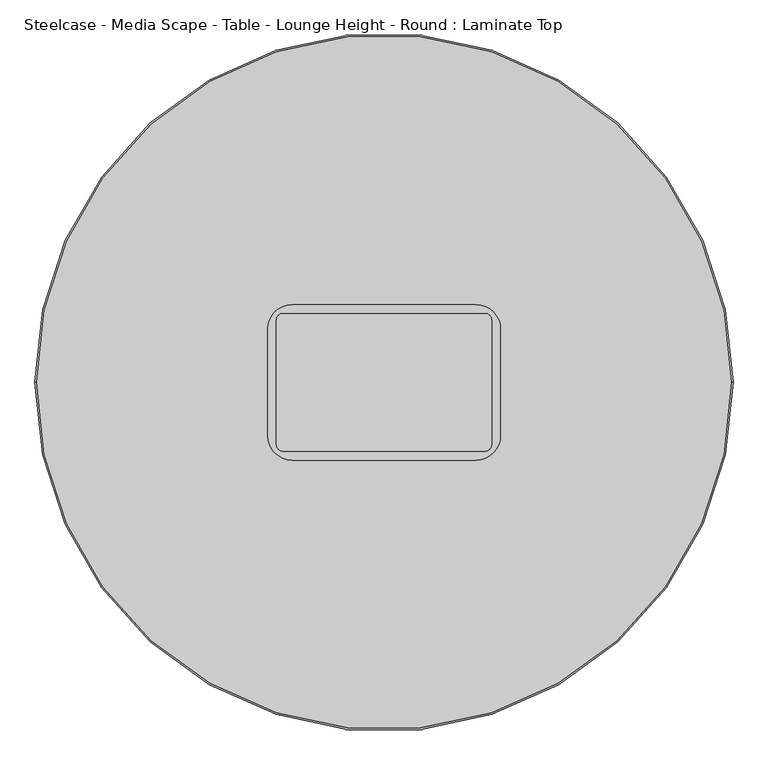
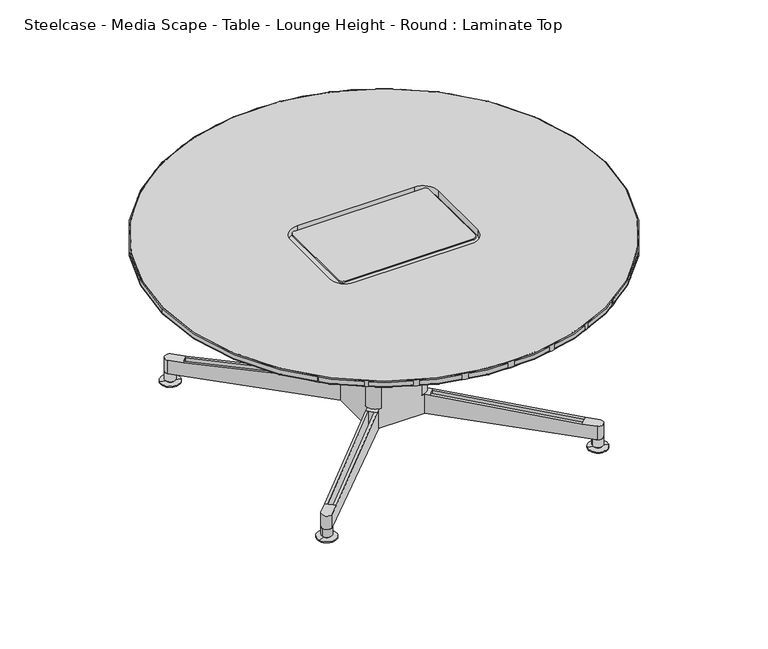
"""IFC4 building model written with IfcOpenShell, lengths in millimetres: furniture geometry, Steelcase - Media Scape - Table - Lounge Height - Round : Laminate Top."""

from ifc_helpers import new_model, si_unit, point, frame, frame_2d, origin, origin_with_axes, origin_2d, place, context, project, spatial, polyline, circle_curve, ellipse_curve, trimmed, segment, composite_curve, outline, extrude, source, transform, mapped, element, save
from ifc_brep_helpers import plane_surface, cylinder_surface, revolved_surface, spline_surface, advanced_brep


def steelcase_media_scape_table_lounge_height_round_laminate_top_3a966390(model_context):
    return source(origin(), model_context, "Body", "SolidModel", [
        extrude(outline(composite_curve([segment(trimmed(circle_curve(origin_2d(), 683.878737), [point((-683.878737, 0.0))], [point((683.878737, 0.0))], False, "CARTESIAN"), True, "CONTINUOUS"), segment(trimmed(circle_curve(origin_2d(), 683.878737), [point((683.878737, 0.0))], [point((-683.878737, 0.0))], False, "CARTESIAN"), True, "CONTINUOUS")], self_intersect=False), holes=[composite_curve([segment(polyline([(-228.727124, 105.1501252), (-228.727124, -104.8655318)]), True, "CONTINUOUS"), segment(trimmed(circle_curve(frame_2d((-180.811706, -104.8655318)), 47.915418), [point((-228.727124, -104.8655318))], [point((-180.811706, -152.7809498))], True, "CARTESIAN"), True, "CONTINUOUS"), segment(polyline([(-180.811706, -152.7809498), (181.3196208, -152.7809498)]), True, "CONTINUOUS"), segment(trimmed(circle_curve(frame_2d((181.3196208, -104.8655318)), 47.915418), [point((181.3196208, -152.7809498))], [point((229.2350388, -104.8655318))], True, "CARTESIAN"), True, "CONTINUOUS"), segment(polyline([(229.2350388, -104.8655318), (229.2350388, 105.1501252)]), True, "CONTINUOUS"), segment(trimmed(circle_curve(frame_2d((181.6042417, 105.1501252)), 47.6307971), [point((229.2350388, 105.1501252))], [point((181.6042417, 152.7809223))], True, "CARTESIAN"), True, "CONTINUOUS"), segment(polyline([(181.6042417, 152.7809223), (-181.0963269, 152.7809223)]), True, "CONTINUOUS"), segment(trimmed(circle_curve(frame_2d((-181.0963269, 105.1501252)), 47.6307971), [point((-181.0963269, 152.7809223))], [point((-228.727124, 105.1501252))], True, "CARTESIAN"), True, "CONTINUOUS")], self_intersect=False)]), frame((0.0, 0.0, 566.7273262), z_axis=(0.0, 0.0, 1.0), x_axis=(1.0, 0.0, 0.0)), (0.0, 0.0, 1.0), 20.0660138),
        advanced_brep(
        [(687.0537612, 0.0, 569.9023504), (-687.0537612, 0.0, 569.9023504), (-683.878737, 0.0, 566.7273262), (683.878737, 0.0, 566.7273262), (687.0537612, 0.0, 583.6183158), (-687.0537612, 0.0, 583.6183158), (683.878737, 0.0, 586.79334), (-683.878737, 0.0, 586.79334)],
        [
            (0, 1, circle_curve(frame((0.0, 0.0, 569.9023504), z_axis=(0.0, 0.0, -1.0), x_axis=(-1.0, 0.0, 0.0)), 687.0537612)),
            (1, 2, circle_curve(frame((-683.878737, 0.0, 569.9023504), z_axis=(0.0, -1.0, 0.0), x_axis=(1.0, 0.0, 0.0)), 3.1750242)),
            (2, 3, circle_curve(frame((0.0, 0.0, 566.7273262), z_axis=(0.0, 0.0, 1.0), x_axis=(-1.0, 0.0, 0.0)), 683.878737)),
            (3, 0, circle_curve(frame((683.878737, 0.0, 569.9023504), z_axis=(0.0, -1.0, 0.0), x_axis=(-1.0, 0.0, 0.0)), 3.1750242)),
            (4, 5, circle_curve(frame((0.0, 0.0, 583.6183158), z_axis=(0.0, 0.0, -1.0), x_axis=(-1.0, 0.0, 0.0)), 687.0537612)),
            (5, 1),
            (0, 4),
            (6, 7, circle_curve(frame((0.0, 0.0, 586.79334), z_axis=(0.0, 0.0, -1.0), x_axis=(-1.0, 0.0, 0.0)), 683.878737)),
            (7, 5, circle_curve(frame((-683.878737, 0.0, 583.6183158), z_axis=(0.0, -1.0, 0.0), x_axis=(1.0, 0.0, 0.0)), 3.1750242)),
            (4, 6, circle_curve(frame((683.878737, 0.0, 583.6183158), z_axis=(0.0, -1.0, 0.0), x_axis=(-1.0, 0.0, 0.0)), 3.1750242)),
            (2, 7),
            (6, 3),
            (1, 0, circle_curve(frame((0.0, 0.0, 569.9023504), z_axis=(0.0, 0.0, -1.0), x_axis=(1.0, 0.0, 0.0)), 687.0537612)),
            (3, 2, circle_curve(frame((0.0, 0.0, 566.7273262), z_axis=(0.0, 0.0, 1.0), x_axis=(1.0, 0.0, 0.0)), 683.878737)),
            (5, 4, circle_curve(frame((0.0, 0.0, 583.6183158), z_axis=(0.0, 0.0, -1.0), x_axis=(1.0, 0.0, 0.0)), 687.0537612)),
            (7, 6, circle_curve(frame((0.0, 0.0, 586.79334), z_axis=(0.0, 0.0, -1.0), x_axis=(1.0, 0.0, 0.0)), 683.878737)),
        ],
        [
            revolved_surface(trimmed(ellipse_curve(frame((-683.878737, 0.0, 569.9023504), z_axis=(0.0, 1.0, 0.0), x_axis=(1.0, 0.0, 0.0)), 3.1750242, 3.1750242), [point((-683.878737, 0.0, 566.7273262))], [point((-687.0537612, 0.0, 569.9023504))], True, "CARTESIAN"), (0.0, 0.0, 0.0), (0.0, 0.0, 1.0)),
            cylinder_surface(frame((0.0, 0.0, 0.0), z_axis=(0.0, 0.0, 1.0), x_axis=(-1.0, 0.0, 0.0)), 687.0537612),
            revolved_surface(trimmed(ellipse_curve(frame((-683.878737, 0.0, 583.6183158), z_axis=(0.0, 1.0, 0.0), x_axis=(1.0, 0.0, 0.0)), 3.1750242, 3.1750242), [point((-687.0537612, 0.0, 583.6183158))], [point((-683.878737, 0.0, 586.79334))], True, "CARTESIAN"), (0.0, 0.0, 0.0), (0.0, 0.0, 1.0)),
            revolved_surface(polyline([(-683.878737, 0.0, 586.79334), (-683.878737, 0.0, 566.7273262)]), (0.0, 0.0, 0.0), (0.0, 0.0, 1.0)),
            revolved_surface(trimmed(ellipse_curve(frame((683.878737, 0.0, 569.9023504), z_axis=(0.0, -1.0, 0.0), x_axis=(-1.0, 0.0, 0.0)), 3.1750242, 3.1750242), [point((683.878737, 0.0, 566.7273262))], [point((687.0537612, 0.0, 569.9023504))], True, "CARTESIAN"), (0.0, 0.0, 0.0), (0.0, 0.0, 1.0)),
            cylinder_surface(origin_with_axes(), 687.0537612),
            revolved_surface(trimmed(ellipse_curve(frame((683.878737, 0.0, 583.6183158), z_axis=(0.0, -1.0, 0.0), x_axis=(-1.0, 0.0, 0.0)), 3.1750242, 3.1750242), [point((687.0537612, 0.0, 583.6183158))], [point((683.878737, 0.0, 586.79334))], True, "CARTESIAN"), (0.0, 0.0, 0.0), (0.0, 0.0, 1.0)),
            revolved_surface(polyline([(683.878737, 0.0, 586.79334), (683.878737, 0.0, 566.7273262)]), (0.0, 0.0, 0.0), (0.0, 0.0, 1.0)),
        ],
        [
            (0, [[1, 2, 3, 4]]),
            (1, [[5, 6, -1, 7]]),
            (2, [[8, 9, -5, 10]]),
            (3, [[-3, 11, -8, 12]]),
            (4, [[13, -4, 14, -2]]),
            (5, [[15, -7, -13, -6]]),
            (6, [[16, -10, -15, -9]]),
            (7, [[-14, -12, -16, -11]]),
        ],
    ),
        advanced_brep(
        [(104.8668545, -82.1762242, 96.4980935), (403.4729739, -380.7823435, 78.1912503), (433.2236275, -410.5329971, 78.1912484), (433.2236275, -410.5329971, 34.5059), (93.9056692, -71.2150389, 34.5059), (93.9056692, -71.2150389, 96.4819), (397.8693429, -386.3859745, 78.1912503), (99.2632235, -87.7798552, 96.4980935), (99.2633324, -87.779964, 34.5059), (397.8693429, -386.3859745, 34.5059), (410.8500564, -433.0537332, 34.5059), (71.4620024, -93.6587057, 34.5059), (-70.954097, -93.6587057, 34.5059), (-410.342151, -433.0537332, 34.5059), (-432.7192089, -410.5295104, 34.5059), (-93.4047373, -71.2080654, 34.5059), (-93.4047373, 71.2080654, 34.5059), (-432.7192089, 410.5295104, 34.5059), (-410.342151, 433.0537332, 34.5059), (-70.954097, 93.6587057, 34.5059), (71.4620024, 93.6587057, 34.5059), (410.8500564, 433.0537332, 34.5059), (433.2271142, 410.5295104, 34.5059), (93.9126427, 71.2080654, 34.5059), (88.0268187, -99.01626, 34.5059), (386.6329381, -397.6223793, 34.5059), (-386.1250327, -397.6223793, 34.5059), (-87.5189134, -99.01626, 34.5059), (-98.7554223, -87.7799593, 34.5059), (-397.3614375, -386.3859745, 34.5059), (386.6329381, 397.6223793, 34.5059), (88.0268187, 99.01626, 34.5059), (99.2633324, 87.779964, 34.5059), (397.8693429, 386.3859745, 34.5059), (-87.5189134, 99.01626, 34.5059), (-386.1250327, 397.6223793, 34.5059), (-397.3615827, 386.3861198, 34.5059), (-98.7553181, 87.7798552, 34.5059), (381.026038, -403.2297148, 78.1912484), (410.8500564, -433.0537332, 78.1912484), (386.6330833, -397.6225246, 78.1912484), (82.419701, -104.6233777, 96.4980935), (71.4585157, -93.6621924, 96.4819), (93.9126427, 71.2080654, 96.4819), (104.8739731, 82.1693958, 96.4819), (99.2633324, 87.779964, 96.4819), (88.0268549, 99.0162962, 96.4819), (82.4231877, 104.619891, 96.4819), (71.4620024, 93.6587057, 96.4819), (62.1626427, 93.6586743, 96.4819), (93.9126427, 61.9086743, 96.4819), (-70.954097, 93.6587057, 96.4819), (-81.9152776, 104.6198863, 96.4819), (-87.5189449, 99.0162915, 96.4819), (-98.7554223, 87.7799593, 96.4819), (-104.3590896, 82.1763645, 96.4819), (-93.4047373, 71.2080654, 96.4819), (-93.4047373, 61.9086743, 96.4819), (-61.6547373, 93.6586743, 96.4819), (-93.4047373, -71.2080654, 96.4819), (-104.366063, -82.1693911, 96.4819), (-98.7554223, -87.7799593, 96.4819), (-87.5189449, -99.0162915, 96.4819), (-81.9152776, -104.6198863, 96.4819), (-70.954097, -93.6587057, 96.4819), (-61.6547373, -93.6587057, 96.4819), (-93.4047373, -61.9087057, 96.4819), (88.0268549, -99.0162962, 96.4819), (93.9126427, -61.9087057, 96.4819), (62.1626427, -93.6587057, 96.4819), (433.2306009, 410.5260237, 78.1912484), (403.4801651, 380.7755878, 78.1912484), (381.029307, 403.2260104, 78.1912503), (410.8535431, 433.0502464, 78.1912484), (-61.6547373, 93.6587057, 352.68662), (62.1626427, 93.6587057, 352.68662), (-410.3456377, 433.0502464, 78.1912484), (-380.5216194, 403.2262281, 78.1912484), (-402.972042, 380.7753701, 78.1912503), (-432.7226956, 410.5260237, 78.1912484), (-93.4047373, -61.9087057, 352.68662), (-93.4047373, 61.9086743, 352.68662), (-432.7226956, -410.5260237, 78.1912484), (-402.9722597, -380.7755878, 78.1912484), (-380.5214017, -403.2260104, 78.1912503), (-410.3456377, -433.0502464, 78.1912484), (62.1626427, -93.6587057, 352.68662), (-61.6547373, -93.6587057, 352.68662), (93.9126427, 61.9086743, 352.68662), (93.9126427, -61.9087057, 352.68662), (-386.1250327, -397.6223793, 78.1912503), (-397.3615827, -386.3861198, 78.1912484), (386.6329381, 397.6223793, 78.1912503), (397.8694881, 386.3861198, 78.1912484), (-386.1250327, 397.6223793, 78.1912503), (-397.3614695, 386.3860065, 78.1912484)],
        [
            (0, 1),
            (1, 2),
            (2, 3),
            (3, 4),
            (4, 5),
            (5, 0),
            (6, 7),
            (7, 8),
            (8, 9),
            (9, 6),
            (3, 10, circle_curve(frame((420.3453732, -420.1094725, 34.5059), z_axis=(0.0, 0.0, -1.0), x_axis=(1.0, 0.0, 0.0)), 16.053502)),
            (10, 11),
            (11, 12),
            (12, 13),
            (13, 14, circle_curve(frame((-419.8374678, -420.1094725, 34.5059), z_axis=(0.0, 0.0, -1.0), x_axis=(-1.0, 0.0, 0.0)), 16.053502)),
            (14, 15),
            (15, 16),
            (16, 17),
            (17, 18, circle_curve(frame((-419.8374678, 420.1094725, 34.5059), z_axis=(0.0, 0.0, -1.0), x_axis=(-1.0, 0.0, 0.0)), 16.053502)),
            (18, 19),
            (19, 20),
            (20, 21),
            (21, 22, circle_curve(frame((420.3453732, 420.1094725, 34.5059), z_axis=(0.0, 0.0, -1.0), x_axis=(1.0, 0.0, 0.0)), 16.053502)),
            (22, 23),
            (23, 4),
            (8, 24),
            (24, 25),
            (25, 9),
            (26, 27),
            (27, 28),
            (28, 29),
            (29, 26),
            (30, 31),
            (31, 32),
            (32, 33),
            (33, 30),
            (34, 35),
            (35, 36),
            (36, 37),
            (37, 34),
            (0, 7),
            (6, 1),
            (38, 39),
            (39, 2, circle_curve(frame((420.3453732, -420.1094725, 78.1912484), z_axis=(0.0, 0.0, 1.0), x_axis=(1.0, 0.0, 0.0)), 16.053502)),
            (6, 40),
            (40, 38),
            (38, 41),
            (41, 42),
            (42, 11),
            (10, 39),
            (25, 40),
            (43, 44),
            (44, 45),
            (45, 46),
            (46, 47),
            (47, 48),
            (48, 49),
            (49, 50, circle_curve(frame((62.1626427, 61.9086743, 96.4819), z_axis=(0.0, 0.0, -1.0), x_axis=(1.0, 0.0, 0.0)), 31.75)),
            (50, 43),
            (51, 52),
            (52, 53),
            (53, 54),
            (54, 55),
            (55, 56),
            (56, 57),
            (57, 58, circle_curve(frame((-61.6547373, 61.9086743, 96.4819), z_axis=(0.0, 0.0, -1.0), x_axis=(1.0, 0.0, 0.0)), 31.75)),
            (58, 51),
            (59, 60),
            (60, 61),
            (61, 62),
            (62, 63),
            (63, 64),
            (64, 65),
            (65, 66, circle_curve(frame((-61.6547373, -61.9087057, 96.4819), z_axis=(0.0, 0.0, -1.0), x_axis=(1.0, 0.0, 0.0)), 31.75)),
            (66, 59),
            (41, 67),
            (67, 7),
            (5, 68),
            (68, 69, circle_curve(frame((62.1626427, -61.9087057, 96.4819), z_axis=(0.0, 0.0, -1.0), x_axis=(1.0, 0.0, 0.0)), 31.75)),
            (69, 42),
            (43, 23),
            (22, 70),
            (70, 71),
            (71, 44),
            (31, 46),
            (45, 32),
            (47, 72),
            (72, 73),
            (73, 21),
            (20, 48),
            (19, 51),
            (58, 74),
            (74, 75),
            (75, 49),
            (18, 76),
            (76, 77),
            (77, 52),
            (53, 34),
            (37, 54),
            (55, 78),
            (78, 79),
            (79, 17),
            (16, 56),
            (15, 59),
            (66, 80),
            (80, 81),
            (81, 57),
            (14, 82),
            (82, 83),
            (83, 60),
            (27, 62),
            (61, 28),
            (63, 84),
            (84, 85),
            (85, 13),
            (12, 64),
            (69, 86),
            (86, 87),
            (87, 65),
            (67, 24),
            (50, 88),
            (88, 89),
            (89, 68),
            (67, 40),
            (90, 62),
            (26, 90),
            (90, 84),
            (82, 85, circle_curve(frame((-419.8374678, -420.1094725, 78.1912484), z_axis=(0.0, 0.0, 1.0), x_axis=(-1.0, 0.0, 0.0)), 16.053502)),
            (90, 91),
            (91, 83),
            (29, 91),
            (61, 91),
            (92, 46),
            (30, 92),
            (92, 72),
            (70, 73, circle_curve(frame((420.3453732, 420.1094725, 78.1912484), z_axis=(0.0, 0.0, 1.0), x_axis=(1.0, 0.0, 0.0)), 16.053502)),
            (92, 93),
            (93, 71),
            (33, 93),
            (45, 93),
            (53, 94),
            (94, 35),
            (77, 94),
            (76, 79, circle_curve(frame((-419.8374678, 420.1094725, 78.1912484), z_axis=(0.0, 0.0, 1.0), x_axis=(-1.0, 0.0, 0.0)), 16.053502)),
            (78, 95),
            (95, 94),
            (95, 36),
            (95, 54),
            (74, 81, circle_curve(frame((-61.6547373, 61.9086743, 352.68662), z_axis=(0.0, 0.0, 1.0), x_axis=(1.0, 0.0, 0.0)), 31.75)),
            (80, 87, circle_curve(frame((-61.6547373, -61.9087057, 352.68662), z_axis=(0.0, 0.0, 1.0), x_axis=(1.0, 0.0, 0.0)), 31.75)),
            (86, 89, circle_curve(frame((62.1626427, -61.9087057, 352.68662), z_axis=(0.0, 0.0, 1.0), x_axis=(1.0, 0.0, 0.0)), 31.75)),
            (88, 75, circle_curve(frame((62.1626427, 61.9086743, 352.68662), z_axis=(0.0, 0.0, 1.0), x_axis=(1.0, 0.0, 0.0)), 31.75)),
        ],
        [
            plane_surface(frame((630.811656, -608.1210257, 34.5059), z_axis=(0.7071067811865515, 0.7071067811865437, 0.0), x_axis=(-0.7071067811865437, 0.7071067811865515, 0.0))),
            plane_surface(frame((625.208025, -613.7246567, 34.5059), z_axis=(-0.7071067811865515, -0.7071067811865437, 0.0), x_axis=(0.7071067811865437, -0.7071067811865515, 0.0))),
            plane_surface(frame((403.4729739, -380.7823435, 34.5059), z_axis=(0.0, 0.0, -1.0000000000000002), x_axis=(-0.7071067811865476, -0.7071067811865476, 0.0))),
            plane_surface(frame((104.8668545, -82.1762242, 96.4980935), z_axis=(0.030625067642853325, -0.030625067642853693, 0.9990616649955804), x_axis=(-0.7071067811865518, -0.7071067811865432, 0.0))),
            plane_surface(frame((381.026038, -403.2297148, 78.1912484), z_axis=(0.0, 0.0, 1.0), x_axis=(0.7071067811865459, -0.7071067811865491, 0.0))),
            plane_surface(frame((381.026038, -403.2297148, 78.1912484), z_axis=(-0.7071067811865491, -0.7071067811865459, 0.0), x_axis=(0.0, 0.0, -1.0))),
            cylinder_surface(frame((420.3453732, -420.1094725, 34.5059), z_axis=(0.0, 0.0, 1.0), x_axis=(1.0, 0.0, 0.0)), 16.053502),
            plane_surface(frame((403.4766783, -380.7790745, 78.1912484), z_axis=(-0.7071067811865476, 0.7071067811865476, 0.0), x_axis=(0.0, 0.0, -1.0))),
            plane_surface(frame((431.5702728, 408.8656956, 96.4819), z_axis=(0.0, 0.0, 1.0), x_axis=(0.7071067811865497, 0.7071067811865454, 0.0))),
            plane_surface(frame((93.9126427, 71.2080654, 96.4819), z_axis=(0.7071067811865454, -0.7071067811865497, 0.0), x_axis=(0.0, 0.0, -1.0))),
            plane_surface(frame((104.8739731, 82.1693958, 96.4819), z_axis=(0.7071022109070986, 0.7071113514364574, 0.0), x_axis=(0.0, 0.0, -1.0))),
            plane_surface(frame((82.4231877, 104.619891, 96.4819), z_axis=(-0.7071067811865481, 0.707106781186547, 0.0), x_axis=(0.0, 0.0, -1.0))),
            plane_surface(frame((71.4620024, 93.6587057, 96.4819), z_axis=(0.0, 1.0, 0.0), x_axis=(0.0, 0.0, -1.0))),
            plane_surface(frame((-70.954097, 93.6587057, 96.4819), z_axis=(0.7071067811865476, 0.7071067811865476, 0.0), x_axis=(0.0, 0.0, -1.0))),
            plane_surface(frame((-81.9152776, 104.6198863, 96.4819), z_axis=(-0.7071022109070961, 0.7071113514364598, 0.0), x_axis=(0.0, 0.0, -1.0))),
            plane_surface(frame((-104.366063, 82.1693911, 96.4819), z_axis=(-0.7071067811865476, -0.7071067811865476, 0.0), x_axis=(0.0, 0.0, -1.0))),
            plane_surface(frame((-93.4047373, 71.2080654, 96.4819), z_axis=(-1.0, 0.0, 0.0), x_axis=(0.0, 0.0, -1.0))),
            plane_surface(frame((-93.4047373, -71.2080654, 96.4819), z_axis=(-0.7071067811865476, 0.7071067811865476, 0.0), x_axis=(0.0, 0.0, -1.0))),
            plane_surface(frame((-104.366063, -82.1693911, 96.4819), z_axis=(-0.7071022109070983, -0.7071113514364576, 0.0), x_axis=(0.0, 0.0, -1.0))),
            plane_surface(frame((-81.9152776, -104.6198863, 96.4819), z_axis=(0.7071067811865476, -0.7071067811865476, 0.0), x_axis=(0.0, 0.0, -1.0))),
            plane_surface(frame((-70.954097, -93.6587057, 96.4819), z_axis=(0.0, -1.0, 0.0), x_axis=(0.0, 0.0, -1.0))),
            plane_surface(frame((82.4231877, -104.619891, 96.4819), z_axis=(0.7071022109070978, -0.7071113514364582, 0.0), x_axis=(0.0, 0.0, -1.0))),
            plane_surface(frame((93.9126427, -71.2080654, 96.4819), z_axis=(1.0, 0.0, 0.0), x_axis=(0.0, 0.0, -1.0))),
            plane_surface(frame((386.6329381, -397.6223793, 75.7808986), z_axis=(0.7071067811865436, 0.7071067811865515, 0.0), x_axis=(0.0, 0.0, -1.0))),
            plane_surface(frame((381.029307, -403.2260104, 78.1912503), z_axis=(0.030625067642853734, -0.030625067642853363, 0.9990616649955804), x_axis=(0.7071067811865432, 0.7071067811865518, 0.0))),
            plane_surface(frame((-613.4637148, -624.9610615, 34.5059), z_axis=(-0.7071067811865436, 0.7071067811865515, 0.0), x_axis=(-0.7071067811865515, -0.7071067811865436, 0.0))),
            plane_surface(frame((-81.9152823, -104.619891, 96.4980935), z_axis=(-0.030625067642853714, -0.030625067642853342, 0.9990616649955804), x_axis=(-0.7071067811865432, 0.7071067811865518, 0.0))),
            plane_surface(frame((-402.968773, -380.7790745, 78.1912484), z_axis=(0.0, 0.0, 1.0000000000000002), x_axis=(-0.7071067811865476, 0.7071067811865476, 0.0))),
            plane_surface(frame((-380.5181327, -403.2297148, 78.1912484), z_axis=(0.7071067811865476, 0.7071067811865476, 0.0), x_axis=(0.0, 0.0, -1.0))),
            cylinder_surface(frame((-419.8374678, -420.1094725, 34.5059), z_axis=(0.0, 0.0, 1.0), x_axis=(-1.0, 0.0, 0.0)), 16.053502),
            plane_surface(frame((-397.3614375, -386.3859745, 75.7808986), z_axis=(0.7071067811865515, -0.7071067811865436, 0.0), x_axis=(0.0, 0.0, -1.0))),
            plane_surface(frame((-402.9650685, -380.7823435, 78.1912503), z_axis=(-0.030625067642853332, -0.030625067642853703, 0.9990616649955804), x_axis=(0.7071067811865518, -0.7071067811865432, 0.0))),
            plane_surface(frame((613.9716202, 624.9610615, 34.5059), z_axis=(0.7071067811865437, -0.7071067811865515, 0.0), x_axis=(0.7071067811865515, 0.7071067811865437, 0.0))),
            plane_surface(frame((82.4231877, 104.619891, 96.4980935), z_axis=(0.030625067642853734, 0.030625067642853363, 0.9990616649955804), x_axis=(0.7071067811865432, -0.7071067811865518, 0.0))),
            plane_surface(frame((403.4766783, 380.7790745, 78.1912484), z_axis=(0.0, 0.0, 1.0000000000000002), x_axis=(0.7071067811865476, -0.7071067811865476, 0.0))),
            plane_surface(frame((381.026038, 403.2297148, 78.1912484), z_axis=(-0.7071067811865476, -0.7071067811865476, 0.0), x_axis=(0.0, 0.0, -1.0))),
            cylinder_surface(frame((420.3453732, 420.1094725, 34.5059), z_axis=(0.0, 0.0, 1.0), x_axis=(1.0, 0.0, 0.0)), 16.053502),
            plane_surface(frame((397.8693429, 386.3859745, 75.7808986), z_axis=(-0.7071067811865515, 0.7071067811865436, 0.0), x_axis=(0.0, 0.0, -1.0))),
            plane_surface(frame((403.4729739, 380.7823435, 78.1912503), z_axis=(0.030625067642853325, 0.030625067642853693, 0.9990616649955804), x_axis=(-0.7071067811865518, 0.7071067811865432, 0.0))),
            plane_surface(frame((-386.1250327, 397.6223793, 75.7808986), z_axis=(-0.7071067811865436, -0.7071067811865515, 0.0), x_axis=(0.0, 0.0, -1.0))),
            plane_surface(frame((-380.5214017, 403.2260104, 78.1912503), z_axis=(-0.030625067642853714, 0.030625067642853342, 0.9990616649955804), x_axis=(-0.7071067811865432, -0.7071067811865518, 0.0))),
            plane_surface(frame((-380.5181327, 403.2297148, 78.1912484), z_axis=(0.0, 0.0, 1.0), x_axis=(-0.7071067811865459, 0.7071067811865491, 0.0))),
            cylinder_surface(frame((-419.8374678, 420.1094725, 34.5059), z_axis=(0.0, 0.0, 1.0), x_axis=(-1.0, 0.0, 0.0)), 16.053502),
            plane_surface(frame((-402.968773, 380.7790745, 78.1912484), z_axis=(0.7071067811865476, -0.7071067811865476, 0.0), x_axis=(0.0, 0.0, -1.0))),
            plane_surface(frame((-624.7001196, 613.7246567, 34.5059), z_axis=(0.7071067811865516, 0.7071067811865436, 0.0), x_axis=(-0.7071067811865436, 0.7071067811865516, 0.0))),
            plane_surface(frame((-104.3589492, 82.1762242, 96.4980935), z_axis=(-0.030625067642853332, 0.030625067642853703, 0.9990616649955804), x_axis=(0.7071067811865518, 0.7071067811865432, 0.0))),
            plane_surface(frame((-29.9047373, 61.9086743, 352.68662), z_axis=(0.0, 0.0, 1.0), x_axis=(0.0, 1.0, 0.0))),
            cylinder_surface(frame((-61.6547373, 61.9086743, 96.4819), z_axis=(0.0, 0.0, 1.0), x_axis=(1.0, 0.0, 0.0)), 31.75),
            cylinder_surface(frame((-61.6547373, -61.9087057, 96.4819), z_axis=(0.0, 0.0, 1.0), x_axis=(1.0, 0.0, 0.0)), 31.75),
            cylinder_surface(frame((62.1626427, -61.9087057, 96.4819), z_axis=(0.0, 0.0, 1.0), x_axis=(1.0, 0.0, 0.0)), 31.75),
            cylinder_surface(frame((62.1626427, 61.9086743, 96.4819), z_axis=(0.0, 0.0, 1.0), x_axis=(1.0, 0.0, 0.0)), 31.75),
        ],
        [
            (0, [[1, 2, 3, 4, 5, 6]]),
            (1, [[7, 8, 9, 10]]),
            (2, [[11, 12, 13, 14, 15, 16, 17, 18, 19, 20, 21, 22, 23, 24, 25, -4], [-9, 26, 27, 28], [29, 30, 31, 32], [33, 34, 35, 36], [37, 38, 39, 40]]),
            (3, [[-1, 41, -7, 42]]),
            (4, [[43, 44, -2, -42, 45, 46]]),
            (5, [[-43, 47, 48, 49, -12, 50]]),
            (6, [[-44, -50, -11, -3]]),
            (7, [[-10, -28, 51, -45]]),
            (8, [[52, 53, 54, 55, 56, 57, 58, 59]]),
            (8, [[60, 61, 62, 63, 64, 65, 66, 67]]),
            (8, [[68, 69, 70, 71, 72, 73, 74, 75]]),
            (8, [[-48, 76, 77, -41, -6, 78, 79, 80]]),
            (9, [[-52, 81, -24, 82, 83, 84]]),
            (10, [[85, -54, 86, -34]]),
            (11, [[-56, 87, 88, 89, -22, 90]]),
            (12, [[-21, 91, -67, 92, 93, 94, -57, -90]]),
            (13, [[-60, -91, -20, 95, 96, 97]]),
            (14, [[98, -40, 99, -62]]),
            (15, [[-64, 100, 101, 102, -18, 103]]),
            (16, [[-17, 104, -75, 105, 106, 107, -65, -103]]),
            (17, [[-68, -104, -16, 108, 109, 110]]),
            (18, [[111, -70, 112, -30]]),
            (19, [[-72, 113, 114, 115, -14, 116]]),
            (20, [[-13, -49, -80, 117, 118, 119, -73, -116]]),
            (21, [[-8, -77, 120, -26]]),
            (22, [[-25, -81, -59, 121, 122, 123, -78, -5]]),
            (23, [[-27, -120, 124, -51]]),
            (24, [[-47, -46, -124, -76]]),
            (25, [[125, -111, -29, 126]]),
            (26, [[-113, -71, -125, 127]]),
            (27, [[-109, 128, -114, -127, 129, 130]]),
            (28, [[-126, -32, 131, -129]]),
            (29, [[-128, -108, -15, -115]]),
            (30, [[-31, -112, 132, -131]]),
            (31, [[-110, -130, -132, -69]]),
            (32, [[133, -85, -33, 134]]),
            (33, [[-87, -55, -133, 135]]),
            (34, [[-83, 136, -88, -135, 137, 138]]),
            (35, [[-134, -36, 139, -137]]),
            (36, [[-136, -82, -23, -89]]),
            (37, [[-35, -86, 140, -139]]),
            (38, [[-84, -138, -140, -53]]),
            (39, [[-37, -98, 141, 142]]),
            (40, [[-97, 143, -141, -61]]),
            (41, [[-96, 144, -101, 145, 146, -143]]),
            (42, [[-144, -95, -19, -102]]),
            (43, [[-142, -146, 147, -38]]),
            (44, [[148, -99, -39, -147]]),
            (45, [[-100, -63, -148, -145]]),
            (46, [[149, -106, 150, -118, 151, -122, 152, -93]]),
            (47, [[-149, -92, -66, -107]]),
            (48, [[-150, -105, -74, -119]]),
            (49, [[-151, -117, -79, -123]]),
            (50, [[-152, -121, -58, -94]]),
        ],
    ),
        advanced_brep(
        [(-419.8378225, 420.251735, 0.0), (-448.2994215, 428.7370221, 0.0), (-391.3762234, 411.7664479, 0.0), (-404.5499346, 415.6939406, 34.5059), (-435.1257103, 424.8095294, 34.5059), (-419.8378225, 420.251735, 34.5059), (-404.5499346, 415.6939406, 9.1059), (-435.1257103, 424.8095294, 9.1059), (-409.2518455, 417.0957263, 9.1059), (-430.4237995, 423.4077437, 9.1059), (-409.2518455, 417.0957263, 3.2766), (-430.4237995, 423.4077437, 3.2766), (-391.3762234, 411.7664479, 3.2766), (-448.2994215, 428.7370221, 3.2766)],
        [
            (0, 1),
            (1, 2, circle_curve(frame((-419.8378225, 420.251735, 0.0), z_axis=(0.0, 0.0, -1.0), x_axis=(-0.9583178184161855, 0.28570432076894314, 0.0)), 29.6995407)),
            (2, 0),
            (2, 1, circle_curve(frame((-419.8378225, 420.251735, 0.0), z_axis=(0.0, 0.0, -1.0), x_axis=(-0.9583178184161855, 0.28570432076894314, 0.0)), 29.6995407)),
            (3, 4, circle_curve(frame((-419.8378225, 420.251735, 34.5059), z_axis=(0.0, 0.0, 1.0), x_axis=(-0.9583178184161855, 0.28570432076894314, 0.0)), 15.9528369)),
            (4, 5),
            (5, 3),
            (4, 3, circle_curve(frame((-419.8378225, 420.251735, 34.5059), z_axis=(0.0, 0.0, 1.0), x_axis=(-0.9583178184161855, 0.28570432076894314, 0.0)), 15.9528369)),
            (6, 7, circle_curve(frame((-419.8378225, 420.251735, 9.1059), z_axis=(0.0, 0.0, 1.0), x_axis=(-0.9583178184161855, 0.28570432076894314, 0.0)), 15.9528369)),
            (7, 4),
            (3, 6),
            (7, 6, circle_curve(frame((-419.8378225, 420.251735, 9.1059), z_axis=(0.0, 0.0, 1.0), x_axis=(-0.9583178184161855, 0.28570432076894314, 0.0)), 15.9528369)),
            (8, 9, circle_curve(frame((-419.8378225, 420.251735, 9.1059), z_axis=(0.0, 0.0, 1.0), x_axis=(-0.9583178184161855, 0.28570432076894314, 0.0)), 11.0464157)),
            (9, 7),
            (6, 8),
            (9, 8, circle_curve(frame((-419.8378225, 420.251735, 9.1059), z_axis=(0.0, 0.0, 1.0), x_axis=(-0.9583178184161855, 0.28570432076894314, 0.0)), 11.0464157)),
            (10, 11, circle_curve(frame((-419.8378225, 420.251735, 3.2766), z_axis=(0.0, 0.0, 1.0), x_axis=(-0.9583178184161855, 0.28570432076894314, 0.0)), 11.0464157)),
            (11, 9),
            (8, 10),
            (11, 10, circle_curve(frame((-419.8378225, 420.251735, 3.2766), z_axis=(0.0, 0.0, 1.0), x_axis=(-0.9583178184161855, 0.28570432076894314, 0.0)), 11.0464157)),
            (12, 13, circle_curve(frame((-419.8378225, 420.251735, 3.2766), z_axis=(0.0, 0.0, 1.0), x_axis=(-0.9583178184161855, 0.28570432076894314, 0.0)), 29.6995407)),
            (13, 11),
            (10, 12),
            (13, 12, circle_curve(frame((-419.8378225, 420.251735, 3.2766), z_axis=(0.0, 0.0, 1.0), x_axis=(-0.9583178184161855, 0.28570432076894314, 0.0)), 29.6995407)),
            (1, 13),
            (12, 2),
        ],
        [
            plane_surface(frame((-419.8378225, 420.251735, 0.0), z_axis=(0.0, 0.0, -1.0000000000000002), x_axis=(-0.9583178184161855, 0.28570432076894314, 0.0))),
            plane_surface(frame((-419.8378225, 420.251735, 34.5059), z_axis=(0.0, 0.0, 1.0000000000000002), x_axis=(-0.9583178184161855, 0.28570432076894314, 0.0))),
            cylinder_surface(frame((-419.8378225, 420.251735, 9.1059), z_axis=(0.0, 0.0, -1.0), x_axis=(-0.9583178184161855, 0.28570432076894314, 0.0)), 15.9528369),
            plane_surface(frame((-419.8378225, 420.251735, 9.1059), z_axis=(0.0, 0.0, -1.0000000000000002), x_axis=(-0.9583178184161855, 0.28570432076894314, 0.0))),
            cylinder_surface(frame((-419.8378225, 420.251735, 9.1059), z_axis=(0.0, 0.0, -1.0), x_axis=(-0.9583178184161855, 0.28570432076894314, 0.0)), 11.0464157),
            plane_surface(frame((-419.8378225, 420.251735, 3.2766), z_axis=(0.0, 0.0, 1.0000000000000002), x_axis=(-0.9583178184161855, 0.28570432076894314, 0.0))),
            cylinder_surface(frame((-419.8378225, 420.251735, 9.1059), z_axis=(0.0, 0.0, -1.0), x_axis=(-0.9583178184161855, 0.28570432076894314, 0.0)), 29.6995407),
        ],
        [
            (0, [[1, 2, 3]]),
            (0, [[-3, 4, -1]]),
            (1, [[5, 6, 7]]),
            (1, [[8, -7, -6]]),
            (2, [[9, 10, -5, 11]]),
            (2, [[12, -11, -8, -10]]),
            (3, [[13, 14, -9, 15]]),
            (3, [[16, -15, -12, -14]]),
            (4, [[17, 18, -13, 19]]),
            (4, [[20, -19, -16, -18]]),
            (5, [[21, 22, -17, 23]]),
            (5, [[24, -23, -20, -22]]),
            (6, [[-2, 25, -21, 26]]),
            (6, [[-4, -26, -24, -25]]),
        ],
    ),
        advanced_brep(
        [(391.8841288, 411.7664479, 3.2766), (448.8073269, 428.7370221, 3.2766), (448.8073269, 428.7370221, 0.0), (391.8841288, 411.7664479, 0.0), (409.7597508, 417.0957263, 3.2766), (430.9317048, 423.4077437, 3.2766), (409.7597508, 417.0957263, 9.1059), (430.9317048, 423.4077437, 9.1059), (405.05784, 415.6939406, 9.1059), (435.6336157, 424.8095294, 9.1059), (405.05784, 415.6939406, 34.5059), (435.6336157, 424.8095294, 34.5059), (420.3457278, 420.251735, 34.5059), (420.3457278, 420.251735, 0.0)],
        [
            (0, 1, circle_curve(frame((420.3457278, 420.251735, 3.2766), z_axis=(0.0, 0.0, -1.0), x_axis=(0.9583178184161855, 0.28570432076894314, 0.0)), 29.6995407)),
            (1, 2),
            (2, 3, circle_curve(frame((420.3457278, 420.251735, 0.0), z_axis=(0.0, 0.0, 1.0), x_axis=(0.9583178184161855, 0.28570432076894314, 0.0)), 29.6995407)),
            (3, 0),
            (1, 0, circle_curve(frame((420.3457278, 420.251735, 3.2766), z_axis=(0.0, 0.0, -1.0), x_axis=(0.9583178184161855, 0.28570432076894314, 0.0)), 29.6995407)),
            (3, 2, circle_curve(frame((420.3457278, 420.251735, 0.0), z_axis=(0.0, 0.0, 1.0), x_axis=(0.9583178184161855, 0.28570432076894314, 0.0)), 29.6995407)),
            (4, 5, circle_curve(frame((420.3457278, 420.251735, 3.2766), z_axis=(0.0, 0.0, -1.0), x_axis=(0.9583178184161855, 0.28570432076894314, 0.0)), 11.0464157)),
            (5, 1),
            (0, 4),
            (5, 4, circle_curve(frame((420.3457278, 420.251735, 3.2766), z_axis=(0.0, 0.0, -1.0), x_axis=(0.9583178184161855, 0.28570432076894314, 0.0)), 11.0464157)),
            (6, 7, circle_curve(frame((420.3457278, 420.251735, 9.1059), z_axis=(0.0, 0.0, -1.0), x_axis=(0.9583178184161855, 0.28570432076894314, 0.0)), 11.0464157)),
            (7, 5),
            (4, 6),
            (7, 6, circle_curve(frame((420.3457278, 420.251735, 9.1059), z_axis=(0.0, 0.0, -1.0), x_axis=(0.9583178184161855, 0.28570432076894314, 0.0)), 11.0464157)),
            (8, 9, circle_curve(frame((420.3457278, 420.251735, 9.1059), z_axis=(0.0, 0.0, -1.0), x_axis=(0.9583178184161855, 0.28570432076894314, 0.0)), 15.9528369)),
            (9, 7),
            (6, 8),
            (9, 8, circle_curve(frame((420.3457278, 420.251735, 9.1059), z_axis=(0.0, 0.0, -1.0), x_axis=(0.9583178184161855, 0.28570432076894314, 0.0)), 15.9528369)),
            (10, 11, circle_curve(frame((420.3457278, 420.251735, 34.5059), z_axis=(0.0, 0.0, -1.0), x_axis=(0.9583178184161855, 0.28570432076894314, 0.0)), 15.9528369)),
            (11, 9),
            (8, 10),
            (11, 10, circle_curve(frame((420.3457278, 420.251735, 34.5059), z_axis=(0.0, 0.0, -1.0), x_axis=(0.9583178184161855, 0.28570432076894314, 0.0)), 15.9528369)),
            (12, 11),
            (10, 12),
            (2, 13),
            (13, 3),
        ],
        [
            cylinder_surface(frame((420.3457278, 420.251735, 9.1059), z_axis=(0.0, 0.0, 1.0), x_axis=(0.9583178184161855, 0.28570432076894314, 0.0)), 29.6995407),
            plane_surface(frame((420.3457278, 420.251735, 3.2766), z_axis=(0.0, 0.0, 1.0000000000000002), x_axis=(0.9583178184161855, 0.28570432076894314, 0.0))),
            cylinder_surface(frame((420.3457278, 420.251735, 9.1059), z_axis=(0.0, 0.0, 1.0), x_axis=(0.9583178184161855, 0.28570432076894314, 0.0)), 11.0464157),
            plane_surface(frame((420.3457278, 420.251735, 9.1059), z_axis=(0.0, 0.0, -1.0000000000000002), x_axis=(0.9583178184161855, 0.28570432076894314, 0.0))),
            cylinder_surface(frame((420.3457278, 420.251735, 9.1059), z_axis=(0.0, 0.0, 1.0), x_axis=(0.9583178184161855, 0.28570432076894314, 0.0)), 15.9528369),
            plane_surface(frame((420.3457278, 420.251735, 34.5059), z_axis=(0.0, 0.0, 1.0000000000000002), x_axis=(0.9583178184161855, 0.28570432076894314, 0.0))),
            plane_surface(frame((420.3457278, 420.251735, 0.0), z_axis=(0.0, 0.0, -1.0000000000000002), x_axis=(0.9583178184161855, 0.28570432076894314, 0.0))),
        ],
        [
            (0, [[1, 2, 3, 4]]),
            (0, [[5, -4, 6, -2]]),
            (1, [[7, 8, -1, 9]]),
            (1, [[10, -9, -5, -8]]),
            (2, [[11, 12, -7, 13]]),
            (2, [[14, -13, -10, -12]]),
            (3, [[15, 16, -11, 17]]),
            (3, [[18, -17, -14, -16]]),
            (4, [[19, 20, -15, 21]]),
            (4, [[22, -21, -18, -20]]),
            (5, [[23, -19, 24]]),
            (5, [[-24, -22, -23]]),
            (6, [[-3, 25, 26]]),
            (6, [[-6, -26, -25]]),
        ],
    ),
        extrude(outline(composite_curve([segment(trimmed(circle_curve(frame_2d((198.9200287, 122.872525)), 12.7), [point((198.9200287, 135.572525))], [point((211.6200287, 122.872525))], False, "CARTESIAN"), True, "CONTINUOUS"), segment(polyline([(211.6200287, 122.872525), (211.6200287, -122.3644925)]), True, "CONTINUOUS"), segment(trimmed(circle_curve(frame_2d((198.9200287, -122.3644925)), 12.7), [point((211.6200287, -122.3644925))], [point((198.9200287, -135.0644925))], False, "CARTESIAN"), True, "CONTINUOUS"), segment(polyline([(198.9200287, -135.0644925), (-198.9200287, -135.0644925)]), True, "CONTINUOUS"), segment(trimmed(circle_curve(frame_2d((-198.9200287, -122.3644925)), 12.7), [point((-198.9200287, -135.0644925))], [point((-211.6200287, -122.3644925))], False, "CARTESIAN"), True, "CONTINUOUS"), segment(polyline([(-211.6200287, -122.3644925), (-211.6200287, 122.872525)]), True, "CONTINUOUS"), segment(trimmed(circle_curve(frame_2d((-198.9200287, 122.872525)), 12.7), [point((-211.6200287, 122.872525))], [point((-198.9200287, 135.572525))], False, "CARTESIAN"), True, "CONTINUOUS"), segment(polyline([(-198.9200287, 135.572525), (198.9200287, 135.572525)]), True, "CONTINUOUS")], self_intersect=False)), frame((0.0, 0.0, 582.72934), z_axis=(0.0, 0.0, 1.0), x_axis=(1.0, 0.0, 0.0)), (0.0, 0.0, 1.0), 4.064),
        advanced_brep(
        [(-391.3762234, -411.7664479, 3.2766), (-448.2994215, -428.7370221, 3.2766), (-448.2994215, -428.7370221, 0.0), (-391.3762234, -411.7664479, 0.0), (-409.2518455, -417.0957263, 3.2766), (-430.4237995, -423.4077437, 3.2766), (-409.2518455, -417.0957263, 9.1059), (-430.4237995, -423.4077437, 9.1059), (-404.5499346, -415.6939406, 9.1059), (-435.1257103, -424.8095294, 9.1059), (-404.5499346, -415.6939406, 34.5059), (-435.1257103, -424.8095294, 34.5059), (-419.8378225, -420.251735, 34.5059), (-419.8378225, -420.251735, 0.0)],
        [
            (0, 1, circle_curve(frame((-419.8378225, -420.251735, 3.2766), z_axis=(0.0, 0.0, -1.0), x_axis=(-0.9583178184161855, -0.28570432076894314, 0.0)), 29.6995407)),
            (1, 2),
            (2, 3, circle_curve(frame((-419.8378225, -420.251735, 0.0), z_axis=(0.0, 0.0, 1.0), x_axis=(-0.9583178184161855, -0.28570432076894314, 0.0)), 29.6995407)),
            (3, 0),
            (1, 0, circle_curve(frame((-419.8378225, -420.251735, 3.2766), z_axis=(0.0, 0.0, -1.0), x_axis=(-0.9583178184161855, -0.28570432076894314, 0.0)), 29.6995407)),
            (3, 2, circle_curve(frame((-419.8378225, -420.251735, 0.0), z_axis=(0.0, 0.0, 1.0), x_axis=(-0.9583178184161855, -0.28570432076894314, 0.0)), 29.6995407)),
            (4, 5, circle_curve(frame((-419.8378225, -420.251735, 3.2766), z_axis=(0.0, 0.0, -1.0), x_axis=(-0.9583178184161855, -0.28570432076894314, 0.0)), 11.0464157)),
            (5, 1),
            (0, 4),
            (5, 4, circle_curve(frame((-419.8378225, -420.251735, 3.2766), z_axis=(0.0, 0.0, -1.0), x_axis=(-0.9583178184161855, -0.28570432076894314, 0.0)), 11.0464157)),
            (6, 7, circle_curve(frame((-419.8378225, -420.251735, 9.1059), z_axis=(0.0, 0.0, -1.0), x_axis=(-0.9583178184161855, -0.28570432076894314, 0.0)), 11.0464157)),
            (7, 5),
            (4, 6),
            (7, 6, circle_curve(frame((-419.8378225, -420.251735, 9.1059), z_axis=(0.0, 0.0, -1.0), x_axis=(-0.9583178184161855, -0.28570432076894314, 0.0)), 11.0464157)),
            (8, 9, circle_curve(frame((-419.8378225, -420.251735, 9.1059), z_axis=(0.0, 0.0, -1.0), x_axis=(-0.9583178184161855, -0.28570432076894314, 0.0)), 15.9528369)),
            (9, 7),
            (6, 8),
            (9, 8, circle_curve(frame((-419.8378225, -420.251735, 9.1059), z_axis=(0.0, 0.0, -1.0), x_axis=(-0.9583178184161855, -0.28570432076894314, 0.0)), 15.9528369)),
            (10, 11, circle_curve(frame((-419.8378225, -420.251735, 34.5059), z_axis=(0.0, 0.0, -1.0), x_axis=(-0.9583178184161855, -0.28570432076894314, 0.0)), 15.9528369)),
            (11, 9),
            (8, 10),
            (11, 10, circle_curve(frame((-419.8378225, -420.251735, 34.5059), z_axis=(0.0, 0.0, -1.0), x_axis=(-0.9583178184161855, -0.28570432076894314, 0.0)), 15.9528369)),
            (12, 11),
            (10, 12),
            (2, 13),
            (13, 3),
        ],
        [
            cylinder_surface(frame((-419.8378225, -420.251735, 9.1059), z_axis=(0.0, 0.0, 1.0), x_axis=(-0.9583178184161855, -0.28570432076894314, 0.0)), 29.6995407),
            plane_surface(frame((-419.8378225, -420.251735, 3.2766), z_axis=(0.0, 0.0, 1.0000000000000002), x_axis=(-0.9583178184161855, -0.28570432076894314, 0.0))),
            cylinder_surface(frame((-419.8378225, -420.251735, 9.1059), z_axis=(0.0, 0.0, 1.0), x_axis=(-0.9583178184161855, -0.28570432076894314, 0.0)), 11.0464157),
            plane_surface(frame((-419.8378225, -420.251735, 9.1059), z_axis=(0.0, 0.0, -1.0000000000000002), x_axis=(-0.9583178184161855, -0.28570432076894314, 0.0))),
            cylinder_surface(frame((-419.8378225, -420.251735, 9.1059), z_axis=(0.0, 0.0, 1.0), x_axis=(-0.9583178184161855, -0.28570432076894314, 0.0)), 15.9528369),
            plane_surface(frame((-419.8378225, -420.251735, 34.5059), z_axis=(0.0, 0.0, 1.0000000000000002), x_axis=(-0.9583178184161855, -0.28570432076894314, 0.0))),
            plane_surface(frame((-419.8378225, -420.251735, 0.0), z_axis=(0.0, 0.0, -1.0000000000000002), x_axis=(-0.9583178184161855, -0.28570432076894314, 0.0))),
        ],
        [
            (0, [[1, 2, 3, 4]]),
            (0, [[5, -4, 6, -2]]),
            (1, [[7, 8, -1, 9]]),
            (1, [[10, -9, -5, -8]]),
            (2, [[11, 12, -7, 13]]),
            (2, [[14, -13, -10, -12]]),
            (3, [[15, 16, -11, 17]]),
            (3, [[18, -17, -14, -16]]),
            (4, [[19, 20, -15, 21]]),
            (4, [[22, -21, -18, -20]]),
            (5, [[23, -19, 24]]),
            (5, [[-24, -22, -23]]),
            (6, [[-3, 25, 26]]),
            (6, [[-6, -26, -25]]),
        ],
    ),
        advanced_brep(
        [(420.3457278, -420.251735, 0.0), (448.8073269, -428.7370221, 0.0), (391.8841288, -411.7664479, 0.0), (405.05784, -415.6939406, 34.5059), (435.6336157, -424.8095294, 34.5059), (420.3457278, -420.251735, 34.5059), (405.05784, -415.6939406, 9.1059), (435.6336157, -424.8095294, 9.1059), (409.7597508, -417.0957263, 9.1059), (430.9317048, -423.4077437, 9.1059), (409.7597508, -417.0957263, 3.2766), (430.9317048, -423.4077437, 3.2766), (391.8841288, -411.7664479, 3.2766), (448.8073269, -428.7370221, 3.2766)],
        [
            (0, 1),
            (1, 2, circle_curve(frame((420.3457278, -420.251735, 0.0), z_axis=(0.0, 0.0, -1.0), x_axis=(0.9583178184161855, -0.28570432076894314, 0.0)), 29.6995407)),
            (2, 0),
            (2, 1, circle_curve(frame((420.3457278, -420.251735, 0.0), z_axis=(0.0, 0.0, -1.0), x_axis=(0.9583178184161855, -0.28570432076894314, 0.0)), 29.6995407)),
            (3, 4, circle_curve(frame((420.3457278, -420.251735, 34.5059), z_axis=(0.0, 0.0, 1.0), x_axis=(0.9583178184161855, -0.28570432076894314, 0.0)), 15.9528369)),
            (4, 5),
            (5, 3),
            (4, 3, circle_curve(frame((420.3457278, -420.251735, 34.5059), z_axis=(0.0, 0.0, 1.0), x_axis=(0.9583178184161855, -0.28570432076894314, 0.0)), 15.9528369)),
            (6, 7, circle_curve(frame((420.3457278, -420.251735, 9.1059), z_axis=(0.0, 0.0, 1.0), x_axis=(0.9583178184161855, -0.28570432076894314, 0.0)), 15.9528369)),
            (7, 4),
            (3, 6),
            (7, 6, circle_curve(frame((420.3457278, -420.251735, 9.1059), z_axis=(0.0, 0.0, 1.0), x_axis=(0.9583178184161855, -0.28570432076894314, 0.0)), 15.9528369)),
            (8, 9, circle_curve(frame((420.3457278, -420.251735, 9.1059), z_axis=(0.0, 0.0, 1.0), x_axis=(0.9583178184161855, -0.28570432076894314, 0.0)), 11.0464157)),
            (9, 7),
            (6, 8),
            (9, 8, circle_curve(frame((420.3457278, -420.251735, 9.1059), z_axis=(0.0, 0.0, 1.0), x_axis=(0.9583178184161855, -0.28570432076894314, 0.0)), 11.0464157)),
            (10, 11, circle_curve(frame((420.3457278, -420.251735, 3.2766), z_axis=(0.0, 0.0, 1.0), x_axis=(0.9583178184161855, -0.28570432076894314, 0.0)), 11.0464157)),
            (11, 9),
            (8, 10),
            (11, 10, circle_curve(frame((420.3457278, -420.251735, 3.2766), z_axis=(0.0, 0.0, 1.0), x_axis=(0.9583178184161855, -0.28570432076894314, 0.0)), 11.0464157)),
            (12, 13, circle_curve(frame((420.3457278, -420.251735, 3.2766), z_axis=(0.0, 0.0, 1.0), x_axis=(0.9583178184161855, -0.28570432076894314, 0.0)), 29.6995407)),
            (13, 11),
            (10, 12),
            (13, 12, circle_curve(frame((420.3457278, -420.251735, 3.2766), z_axis=(0.0, 0.0, 1.0), x_axis=(0.9583178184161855, -0.28570432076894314, 0.0)), 29.6995407)),
            (1, 13),
            (12, 2),
        ],
        [
            plane_surface(frame((420.3457278, -420.251735, 0.0), z_axis=(0.0, 0.0, -1.0000000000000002), x_axis=(0.9583178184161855, -0.28570432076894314, 0.0))),
            plane_surface(frame((420.3457278, -420.251735, 34.5059), z_axis=(0.0, 0.0, 1.0000000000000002), x_axis=(0.9583178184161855, -0.28570432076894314, 0.0))),
            cylinder_surface(frame((420.3457278, -420.251735, 9.1059), z_axis=(0.0, 0.0, -1.0), x_axis=(0.9583178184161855, -0.28570432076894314, 0.0)), 15.9528369),
            plane_surface(frame((420.3457278, -420.251735, 9.1059), z_axis=(0.0, 0.0, -1.0000000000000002), x_axis=(0.9583178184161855, -0.28570432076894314, 0.0))),
            cylinder_surface(frame((420.3457278, -420.251735, 9.1059), z_axis=(0.0, 0.0, -1.0), x_axis=(0.9583178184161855, -0.28570432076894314, 0.0)), 11.0464157),
            plane_surface(frame((420.3457278, -420.251735, 3.2766), z_axis=(0.0, 0.0, 1.0000000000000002), x_axis=(0.9583178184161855, -0.28570432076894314, 0.0))),
            cylinder_surface(frame((420.3457278, -420.251735, 9.1059), z_axis=(0.0, 0.0, -1.0), x_axis=(0.9583178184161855, -0.28570432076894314, 0.0)), 29.6995407),
        ],
        [
            (0, [[1, 2, 3]]),
            (0, [[-3, 4, -1]]),
            (1, [[5, 6, 7]]),
            (1, [[8, -7, -6]]),
            (2, [[9, 10, -5, 11]]),
            (2, [[12, -11, -8, -10]]),
            (3, [[13, 14, -9, 15]]),
            (3, [[16, -15, -12, -14]]),
            (4, [[17, 18, -13, 19]]),
            (4, [[20, -19, -16, -18]]),
            (5, [[21, 22, -17, 23]]),
            (5, [[24, -23, -20, -22]]),
            (6, [[-2, 25, -21, 26]]),
            (6, [[-4, -26, -24, -25]]),
        ],
    ),
        advanced_brep(
        [(97.5866791, 98.6154785, 352.68662), (97.5866791, -98.615506, 352.68662), (-97.0787643, -98.615506, 352.68662), (-97.0787643, 98.6154785, 352.68662), (418.6442882, 444.499962, 557.20234), (-418.6442882, 444.499962, 557.20234), (-444.2459457, 423.5153185, 557.20234), (-444.2459457, -423.5154845, 557.20234), (-418.6443611, -444.5000622, 557.20234), (418.6443611, -444.5000622, 557.20234), (444.7538605, -418.3905628, 557.20234), (444.7538605, 418.3903897, 557.20234)],
        [
            (0, 1),
            (1, 2),
            (2, 3),
            (3, 0),
            (4, 5),
            (5, 6, circle_curve(frame((-418.6442882, 418.3903897, 557.20234), z_axis=(0.0, 0.0, 1.0), x_axis=(-1.0, 0.0, 0.0)), 26.1095723)),
            (6, 7),
            (7, 8, circle_curve(frame((-418.6443611, -418.3905628, 557.20234), z_axis=(0.0, 0.0, 1.0), x_axis=(-1.0, 0.0, 0.0)), 26.1094994)),
            (8, 9),
            (9, 10, circle_curve(frame((418.6443611, -418.3905628, 557.20234), z_axis=(0.0, 0.0, 1.0), x_axis=(1.0, 0.0, 0.0)), 26.1094994)),
            (10, 11),
            (11, 4, circle_curve(frame((418.6442882, 418.3903897, 557.20234), z_axis=(0.0, 0.0, 1.0), x_axis=(1.0, 0.0, 0.0)), 26.1095723)),
            (11, 0),
            (0, 4),
            (10, 1),
            (9, 1),
            (8, 2),
            (7, 2),
            (6, 3),
            (5, 3),
        ],
        [
            plane_surface(frame((0.2539574, -1.38e-05, 352.68662), z_axis=(0.0, 0.0, -1.0), x_axis=(-1.0, 0.0, 0.0))),
            plane_surface(frame((0.1269787, -6.74e-05, 557.20234), z_axis=(0.0, 0.0, 1.0), x_axis=(-1.0, 0.0, 0.0))),
            spline_surface(2, 1, [[(418.6442882, 444.499962, 557.20234), (97.5866791, 98.6154785, 352.68662)], [(444.7538605, 444.499962, 557.20234), (97.5866791, 98.6154785, 352.68662)], [(444.7538605, 418.3903897, 557.20234), (97.5866791, 98.6154785, 352.68662)]], [3, 3], [2, 2], [0.0, 1.0], [0.0, 1.0], weights=[[1.0, 1.0], [0.7071067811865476, 0.7071067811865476], [1.0, 1.0]]),
            plane_surface(frame((444.7538605, -8.66e-05, 557.20234), z_axis=(0.5075726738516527, 0.0, -0.861608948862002), x_axis=(0.0, -1.0, 0.0))),
            spline_surface(2, 1, [[(444.7538605, -418.3905628, 557.20234), (97.5866791, -98.615506, 352.68662)], [(444.7538604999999, -444.50006219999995, 557.20234), (97.5866791, -98.615506, 352.68662)], [(418.6443611, -444.5000622, 557.20234), (97.5866791, -98.615506, 352.68662)]], [3, 3], [2, 2], [0.0, 1.0], [0.0, 1.0], weights=[[1.0, 1.0], [0.7071067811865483, 0.7071067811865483], [1.0, 1.0]]),
            plane_surface(frame((0.0, -444.5000622, 557.20234), z_axis=(0.0, -0.5089679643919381, -0.8607854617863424), x_axis=(-1.0, 0.0, 0.0))),
            spline_surface(2, 1, [[(-418.6443611, -444.5000622, 557.20234), (-97.0787643, -98.615506, 352.68662)], [(-440.0452558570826, -444.5000622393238, 557.20234), (-97.0787643, -98.615506, 352.68662)], [(-444.2459457, -423.5154845, 557.20234), (-97.0787643, -98.615506, 352.68662)]], [3, 3], [2, 2], [0.0, 1.0], [0.0, 1.0], weights=[[1.0, 1.0], [0.7733969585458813, 0.7733969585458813], [1.0, 1.0]]),
            plane_surface(frame((-444.2459457, -8.3e-05, 557.20234), z_axis=(-0.507572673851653, 0.0, -0.8616089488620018), x_axis=(0.0, 1.0, 0.0))),
            spline_surface(2, 1, [[(-444.2459457, 423.5153185, 557.20234), (-97.0787643, 98.6154785, 352.68662)], [(-440.04524873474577, 444.4999619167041, 557.20234), (-97.0787643, 98.6154785, 352.68662)], [(-418.6442882, 444.499962, 557.20234), (-97.0787643, 98.6154785, 352.68662)]], [3, 3], [2, 2], [0.0, 1.0], [0.0, 1.0], weights=[[1.0, 1.0], [0.7733968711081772, 0.7733968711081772], [1.0, 1.0]]),
            plane_surface(frame((0.0, 444.499962, 557.20234), z_axis=(0.0, 0.5089680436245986, -0.8607854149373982), x_axis=(1.0, 0.0, 0.0))),
        ],
        [
            (0, [[1, 2, 3, 4]]),
            (1, [[5, 6, 7, 8, 9, 10, 11, 12]]),
            (2, [[-12, 13, 14]]),
            (3, [[-11, 15, -1, -13]]),
            (4, [[-10, 16, -15]]),
            (5, [[-9, 17, -2, -16]]),
            (6, [[-8, 18, -17]]),
            (7, [[-7, 19, -3, -18]]),
            (8, [[-6, 20, -19]]),
            (9, [[-5, -14, -4, -20]]),
        ],
    ),
    ])


if __name__ == "__main__":
    model = new_model("IFC4")
    model_context = context("Model", 3, world=origin())
    ifc_project = project(units=[si_unit("LENGTHUNIT", "METRE", prefix="MILLI")], contexts=[model_context])
    site = spatial("IfcSite", under=ifc_project)
    building = spatial("IfcBuilding", under=site)
    placement = place(None, origin())
    steelcase_media_scape_table_lounge_height_round_laminate_top_shape = steelcase_media_scape_table_lounge_height_round_laminate_top_3a966390(model_context)
    element("IfcFurniture", 1, ObjectType="Steelcase - Media Scape - Table - Lounge Height - Round : Laminate Top", at=placement, inside=building, context=model_context, shape_type="MappedRepresentation", body=[
        mapped(steelcase_media_scape_table_lounge_height_round_laminate_top_shape, transform((0.0, 0.0, 0.0), x_axis=(1.0, 0.0, 0.0), y_axis=(0.0, 1.0, 0.0), z_axis=(0.0, 0.0, 1.0))),
    ])
    save(model, "model.ifc")
